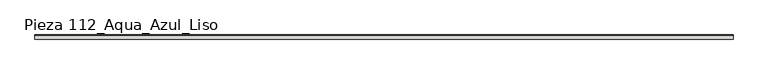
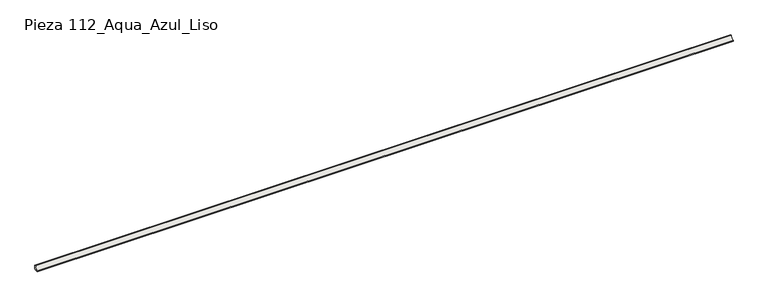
"""IFC4 building model written with IfcOpenShell, lengths in millimetres: slab geometry, ROSA GRES_112 : Pieza 112_Aqua_Azul_Liso."""

import ifcopenshell
import ifcopenshell.guid

model = None  # the IFC model being written
_history = None  # IfcOwnerHistory: only IFC2X3 demands one
_inside = {}  # id of a spatial element -> (the spatial element, [elements in it])
_under = {}  # id of a project, library or spatial element -> (it, [spatial elements below it])
_declared = {}  # id of a project -> (the project, [libraries it declares])
_typed = {}  # id of a type object -> (the type object, [elements of that type])
_made_of = {}  # id of a material, layer set ... -> (it, [elements and type objects made of it])


def new_model(schema):
    """Start an empty IFC model of exactly this schema.

    Asked for "IFC4X3", IfcOpenShell would pick the latest addendum, in which some entities
    have other attributes; the version numbers below select the first issue.
    IFC2X3 requires an IfcOwnerHistory on every rooted entity: one is made here for all.
    """
    global model, _history
    if schema == "IFC4X3":
        model = ifcopenshell.file(schema_version=(4, 3, 0, 0))
    else:
        model = ifcopenshell.file(schema=schema)
    _inside.clear()
    _under.clear()
    _declared.clear()
    _typed.clear()
    _made_of.clear()
    _history = None
    if model.schema == "IFC2X3":
        org = make("IfcOrganization", Name="unknown")
        user = make(
            "IfcPersonAndOrganization",
            ThePerson=make("IfcPerson", FamilyName="unknown"),
            TheOrganization=org,
        )
        app = make(
            "IfcApplication",
            ApplicationDeveloper=org,
            Version="unknown",
            ApplicationFullName="unknown",
            ApplicationIdentifier="unknown",
        )
        _history = make(
            "IfcOwnerHistory",
            OwningUser=user,
            OwningApplication=app,
            ChangeAction="ADDED",
            CreationDate=0,
        )
    return model


def make(cls, **values):
    """One entity of the class cls with the attributes given. An attribute that is None is left unset."""
    return model.create_entity(
        cls, **{name: value for name, value in values.items() if value is not None}
    )


def rooted(cls, **values):
    """An entity with a GlobalId (a new one), such as an element, a storey or a relation."""
    return make(cls, GlobalId=ifcopenshell.guid.new(), OwnerHistory=_history, **values)


def si_unit(unit_type, name, prefix=None):
    """IfcSIUnit, for example si_unit("LENGTHUNIT", "METRE", prefix="MILLI")."""
    return make("IfcSIUnit", UnitType=unit_type, Prefix=prefix, Name=name)


def assignment(units):
    """IfcUnitAssignment: the units of a project."""
    return None if units is None else make("IfcUnitAssignment", Units=units)


def point(xyz):
    """IfcCartesianPoint."""
    return None if xyz is None else make("IfcCartesianPoint", Coordinates=xyz)


def direction(xyz):
    """IfcDirection."""
    return None if xyz is None else make("IfcDirection", DirectionRatios=xyz)


def frame(location, z_axis=None, x_axis=None):
    """IfcAxis2Placement3D, a coordinate frame: its origin and axes. An axis left out is left unset."""
    return make(
        "IfcAxis2Placement3D",
        Location=point(location),
        Axis=direction(z_axis),
        RefDirection=direction(x_axis),
    )


def frame_2d(location, x_axis=None):
    """IfcAxis2Placement2D, a coordinate frame in the plane: its origin and x axis."""
    return make(
        "IfcAxis2Placement2D", Location=point(location), RefDirection=direction(x_axis)
    )


def origin():
    """The frame at (0, 0, 0) with its axes left unset."""
    return frame((0.0, 0.0, 0.0))


def place(relative_to, where):
    """IfcLocalPlacement: puts the frame where relative to a parent placement (None: the world)."""
    return make(
        "IfcLocalPlacement", PlacementRelTo=relative_to, RelativePlacement=where
    )


def context(
    kind, dimensions, precision=None, world=None, true_north=None, identifier=None
):
    """IfcGeometricRepresentationContext, for example the 3D "Model" context."""
    return make(
        "IfcGeometricRepresentationContext",
        ContextIdentifier=identifier,
        ContextType=kind,
        CoordinateSpaceDimension=dimensions,
        Precision=precision,
        WorldCoordinateSystem=world,
        TrueNorth=true_north,
    )


def project(units=None, contexts=None):
    """IfcProject with its units and contexts."""
    return rooted(
        "IfcProject",
        Name="project",
        RepresentationContexts=contexts,
        UnitsInContext=assignment(units),
    )


def spatial(cls, under=None, at=None, **own):
    """A site, building, storey or space (cls), placed at a placement, below another one or the project."""
    s = rooted(cls, ObjectPlacement=at, **own)
    if under is not None:
        _under.setdefault(under.id(), (under, []))[1].append(s)
    return s


def polyline(points):
    """IfcPolyline through the points."""
    return make("IfcPolyline", Points=[point(p) for p in points])


def circle_curve(where, radius):
    """IfcCircle in the frame where."""
    return make("IfcCircle", Position=where, Radius=radius)


def trimmed(basis, trim1, trim2, sense, master):
    """IfcTrimmedCurve: the piece of a basis curve between two trims."""
    return make(
        "IfcTrimmedCurve",
        BasisCurve=basis,
        Trim1=trim1,
        Trim2=trim2,
        SenseAgreement=sense,
        MasterRepresentation=master,
    )


def segment(curve, same_sense, transition):
    """IfcCompositeCurveSegment."""
    return make(
        "IfcCompositeCurveSegment",
        Transition=transition,
        SameSense=same_sense,
        ParentCurve=curve,
    )


def composite_curve(segments, self_intersect=None):
    """IfcCompositeCurve: segments joined end to end."""
    return make("IfcCompositeCurve", Segments=segments, SelfIntersect=self_intersect)


def outline(outer, holes=None, kind="AREA"):
    """IfcArbitraryClosedProfileDef: a profile drawn as a closed curve; with holes, ...WithVoids."""
    if holes is None:
        return make("IfcArbitraryClosedProfileDef", ProfileType=kind, OuterCurve=outer)
    return make(
        "IfcArbitraryProfileDefWithVoids",
        ProfileType=kind,
        OuterCurve=outer,
        InnerCurves=holes,
    )


def extrude(swept, where, along, depth):
    """IfcExtrudedAreaSolid: the profile swept, set in the frame where, extruded along a direction by depth."""
    return make(
        "IfcExtrudedAreaSolid",
        SweptArea=swept,
        Position=where,
        ExtrudedDirection=direction(along),
        Depth=depth,
    )


def shape(context_of_items, identifier, shape_type, items):
    """IfcShapeRepresentation: the items that make up one representation, for example the "Body"."""
    return make(
        "IfcShapeRepresentation",
        ContextOfItems=context_of_items,
        RepresentationIdentifier=identifier,
        RepresentationType=shape_type,
        Items=items,
    )


def source(mapping_origin, context_of_items, identifier, shape_type, items):
    """IfcRepresentationMap: a shape defined once, which mapped items show again and again."""
    return make(
        "IfcRepresentationMap",
        MappingOrigin=mapping_origin,
        MappedRepresentation=shape(context_of_items, identifier, shape_type, items),
    )


def transform(
    local_origin,
    x_axis=None,
    y_axis=None,
    z_axis=None,
    scale=None,
    scale2=None,
    scale3=None,
    uniform=True,
):
    """IfcCartesianTransformationOperator3D, or its non-uniform kind. x_axis, y_axis, z_axis: its Axis1, 2, 3."""
    if uniform:
        return make(
            "IfcCartesianTransformationOperator3D",
            Axis1=direction(x_axis),
            Axis2=direction(y_axis),
            LocalOrigin=point(local_origin),
            Scale=scale,
            Axis3=direction(z_axis),
        )
    return make(
        "IfcCartesianTransformationOperator3DnonUniform",
        Axis1=direction(x_axis),
        Axis2=direction(y_axis),
        LocalOrigin=point(local_origin),
        Scale=scale,
        Axis3=direction(z_axis),
        Scale2=scale2,
        Scale3=scale3,
    )


def mapped(mapping_source, mapping_target):
    """IfcMappedItem: shows the shape of a source again, moved by a transform."""
    return make(
        "IfcMappedItem", MappingSource=mapping_source, MappingTarget=mapping_target
    )


def made_of(thing, what):
    """Note that an element or type object is made of a material, layer set ...; save() writes the relation."""
    if what is not None:
        _made_of.setdefault(what.id(), (what, []))[1].append(thing)
    return thing


def element(
    cls,
    number,
    at=None,
    inside=None,
    cuts=None,
    type_object=None,
    material=None,
    context=None,
    identifier="Body",
    shape_type=None,
    held_by="IfcProductDefinitionShape",
    body=None,
    shapes=None,
    **own,
):
    """One element of the class cls, such as IfcWall. Its Tag is "e" and its number.

    at: its placement. inside: the storey or other place that contains it. cuts: it is an
    opening in that element (IfcRelVoidsElement). A single representation is given by context,
    identifier, shape_type and body (its items); several are given by shapes. held_by: the class
    of the entity that holds the representations. save() writes the other relations.
    """
    e = rooted(cls, Tag="e%d" % number, ObjectPlacement=at, **own)
    if body is not None:
        shapes = [shape(context, identifier, shape_type, body)]
    if shapes is not None:
        e.Representation = make(held_by, Representations=shapes)
    if inside is not None:
        _inside.setdefault(inside.id(), (inside, []))[1].append(e)
    if cuts is not None:
        rooted(
            "IfcRelVoidsElement", RelatingBuildingElement=cuts, RelatedOpeningElement=e
        )
    if type_object is not None:
        _typed.setdefault(type_object.id(), (type_object, []))[1].append(e)
    return made_of(e, material)


def aggregate(whole, parts):
    """IfcRelAggregates: a whole, such as a stair, and the parts it consists of."""
    return rooted("IfcRelAggregates", RelatingObject=whole, RelatedObjects=parts)


def save(model, path):
    """Write the relations noted so far, then the file.

    IfcRelAggregates (storeys below a building ...), IfcRelContainedInSpatialStructure (elements
    in a storey), IfcRelDefinesByType, IfcRelAssociatesMaterial and IfcRelDeclares: one each for
    every whole, place, type object, material and project.
    """
    for whole, parts in _under.values():
        aggregate(whole, parts)
    for where, things in _inside.values():
        rooted(
            "IfcRelContainedInSpatialStructure",
            RelatedElements=things,
            RelatingStructure=where,
        )
    for kind, things in _typed.values():
        rooted("IfcRelDefinesByType", RelatedObjects=things, RelatingType=kind)
    for what, things in _made_of.values():
        rooted("IfcRelAssociatesMaterial", RelatedObjects=things, RelatingMaterial=what)
    for by, libraries in _declared.values():
        rooted("IfcRelDeclares", RelatingContext=by, RelatedDefinitions=libraries)
    model.write(path)


def pieza_112_aqua_azul_liso_9cfd9824(model_context):
    return source(origin(), model_context, "Body", "SweptSolid", [
        extrude(outline(composite_curve([segment(polyline([(0.0, 8.7114978), (-8.7114978, 0.0), (-40.0, 0.0), (-40.0, 9.9734114)]), True, "CONTINUOUS"), segment(trimmed(circle_curve(frame_2d((-39.9955547, 39.9955547)), 30.0221435), [point((-40.0, 9.9734114))], [point((-9.9734114, 40.0))], True, "CARTESIAN"), True, "CONTINUOUS"), segment(polyline([(-9.9734114, 40.0), (0.0, 40.0), (0.0, 8.7114978)]), True, "CONTINUOUS")], self_intersect=False)), frame((0.0, 0.0, 0.0), z_axis=(1.0, 0.0, 0.0), x_axis=(0.0, 1.0, 0.0)), (0.0, 0.0, 1.0), 6750.0265886),
    ])


if __name__ == "__main__":
    model = new_model("IFC4")
    model_context = context("Model", 3, world=origin())
    ifc_project = project(units=[si_unit("LENGTHUNIT", "METRE", prefix="MILLI")], contexts=[model_context])
    site = spatial("IfcSite", under=ifc_project)
    building = spatial("IfcBuilding", under=site)
    placement = place(None, origin())
    pieza_112_aqua_azul_liso_shape = pieza_112_aqua_azul_liso_9cfd9824(model_context)
    element("IfcSlab", 1, ObjectType="ROSA GRES_112 : Pieza 112_Aqua_Azul_Liso", at=placement, inside=building, context=model_context, shape_type="MappedRepresentation", body=[
        mapped(pieza_112_aqua_azul_liso_shape, transform((0.0, 0.0, 0.0), x_axis=(1.0, 0.0, 0.0), y_axis=(0.0, 1.0, 0.0), z_axis=(0.0, 0.0, 1.0))),
    ])
    save(model, "model.ifc")
